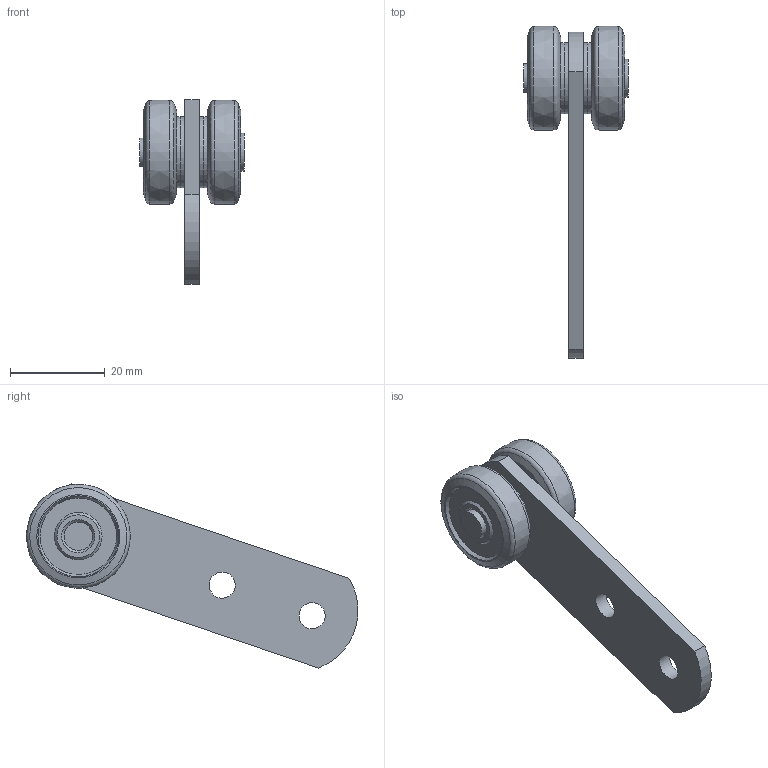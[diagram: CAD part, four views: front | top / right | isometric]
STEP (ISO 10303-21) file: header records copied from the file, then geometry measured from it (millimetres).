
FILE_DESCRIPTION(/* description */ ('Bolzen'),/* implementation_level */ '2;1');
FILE_NAME(/* name */ 'Q:\sge-ma\Produktmanagement-STB\STB\Workspace\stp\010332810.stp',/* time_stamp */ '2016-07-18T09:03:05+02:00',/* author */ ('avschreier'),/* organization */ (''),/* preprocessor_version */ 'ST-DEVELOPER v16.1',/* originating_system */ 'Autodesk Inventor 2016',/* authorisation */ '');
FILE_SCHEMA (('AUTOMOTIVE_DESIGN { 1 0 10303 214 3 1 1 }'));
Length unit declared in the file: millimetre
Products named in the file (5): 000304010; 000303234; 336100000; 000226090; 010332810
Assembly tree (8 placements, depth 2):
  010332810
    000304010
    000303234  x2
    336100000
    000226090  x4
Bounding box: 22 x 69.88 x 38.77 mm (x, y, z)
Volume: 9223.5 mm3; surface area: 7636.6 mm2
Topology: 8 solids, 8 shells, 67 faces, 117 edges, 75 vertices
Faces by surface type: plane 27, cylinder 17, cone 16, torus 5, bspline 2
Full cylindrical faces by diameter (mm): 5.5 x2, 6 x3, 6.1 x1, 6.4 x4, 8 x1, 15 x4
Entity records: 1005 total; most frequent: DIRECTION 184, CARTESIAN_POINT 169, ORIENTED_EDGE 96, AXIS2_PLACEMENT_3D 88, EDGE_LOOP 71, EDGE_CURVE 48, VERTEX_POINT 43, CIRCLE 39
